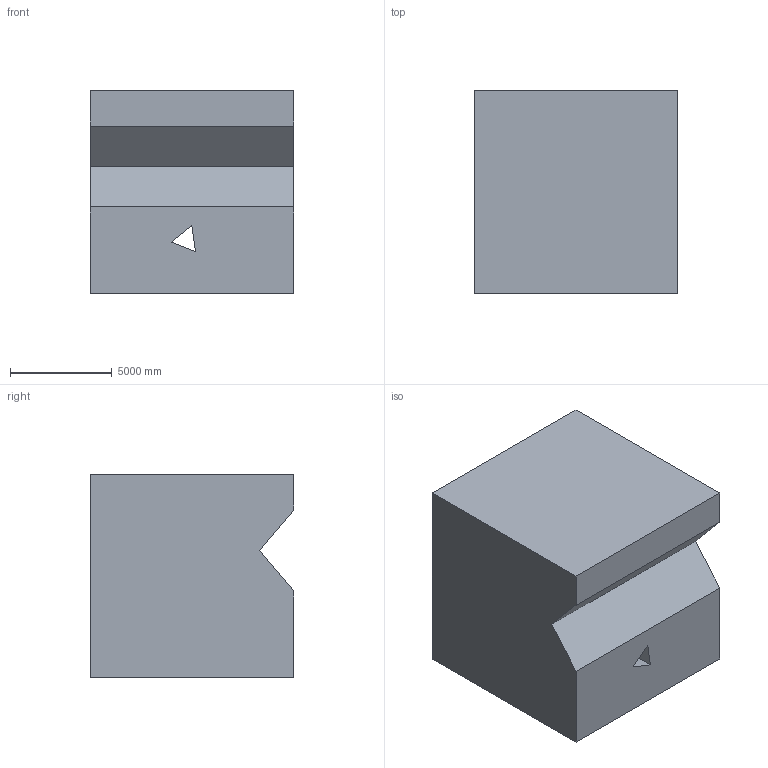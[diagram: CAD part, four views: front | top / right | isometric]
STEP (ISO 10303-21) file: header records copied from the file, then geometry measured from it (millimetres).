
FILE_DESCRIPTION (( 'STEP AP203' ), '1' );
FILE_NAME ('117.STEP', '2022-09-05T15:35:26', ( 'user' ), ( '' ), 'SwSTEP 2.0', 'SolidWorks 2021', '' );
FILE_SCHEMA (( 'CONFIG_CONTROL_DESIGN' ));
Length unit declared in the file: centimetre
Products named in the file (1): 117
Bounding box: 10000 x 10000 x 10000 mm (x, y, z)
Volume: 959260359927.8 mm3; surface area: 643050290.3 mm2
Topology: 1 solids, 1 shells, 12 faces, 30 edges, 20 vertices
Faces by surface type: plane 12
Entity records: 435 total; most frequent: CARTESIAN_POINT 63, ORIENTED_EDGE 60, DIRECTION 56, EDGE_CURVE 30, VECTOR 30, LINE 30, VERTEX_POINT 20, EDGE_LOOP 14
